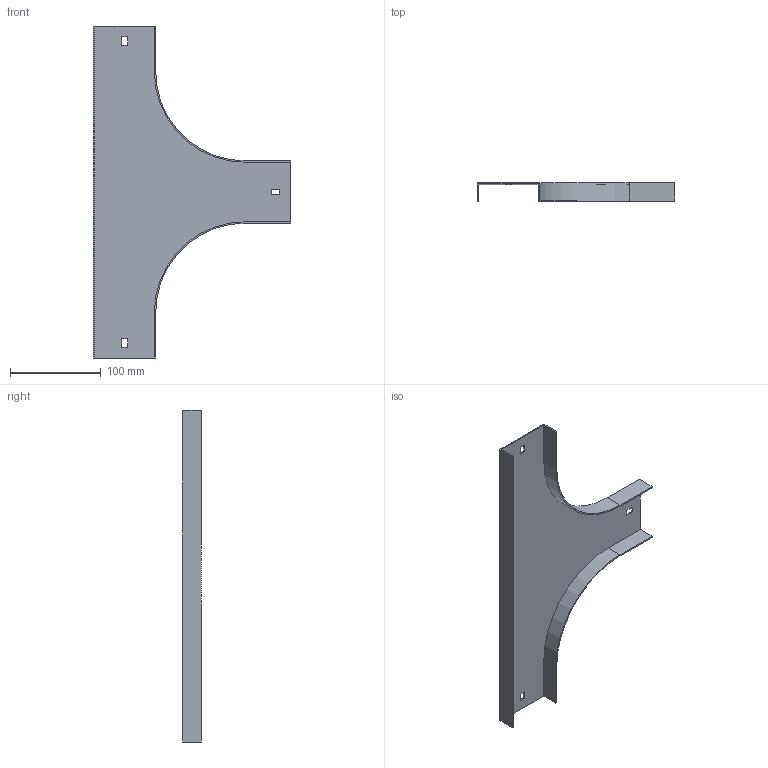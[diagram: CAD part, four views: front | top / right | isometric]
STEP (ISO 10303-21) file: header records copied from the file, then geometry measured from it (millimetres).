
FILE_DESCRIPTION (( 'STEP AP214' ), '1' );
FILE_NAME ('15N1R065.step', '2025-02-21T09:51:43', ( '' ), ( '' ), 'SwSTEP 2.0', 'SolidWorks 2023', '' );
FILE_SCHEMA (( 'AUTOMOTIVE_DESIGN' ));
Length unit declared in the file: millimetre
Products named in the file (1): 15N1R065
Bounding box: 217 x 20 x 365.5 mm (x, y, z)
Volume: 83141.8 mm3; surface area: 112782.4 mm2
Topology: 1 solids, 1 shells, 34 faces, 96 edges, 64 vertices
Faces by surface type: plane 30, cylinder 4
Entity records: 1123 total; most frequent: CARTESIAN_POINT 195, ORIENTED_EDGE 192, DIRECTION 174, EDGE_CURVE 96, LINE 88, VECTOR 88, VERTEX_POINT 64, AXIS2_PLACEMENT_3D 43
